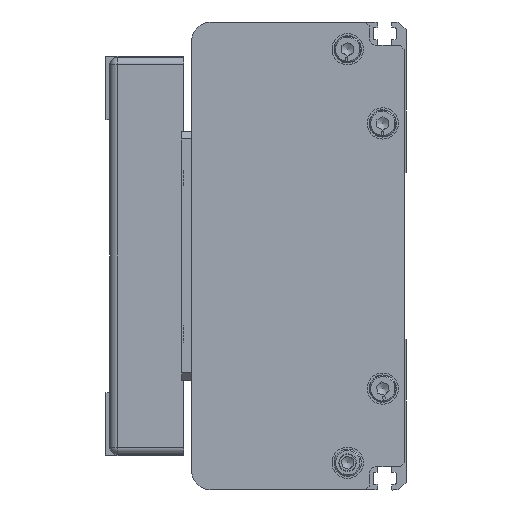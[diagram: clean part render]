
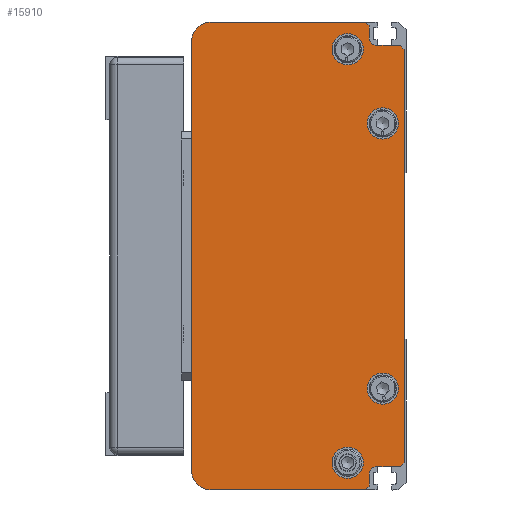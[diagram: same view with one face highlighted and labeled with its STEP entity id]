
A CAD part, left-side view. The second image highlights one B-rep face of the part: STEP entity #15910.
In plain terms, the highlighted planar face has unit normal (-1, 0, 0) as drawn and (0, 0, -1) by its records, which use the part's own axes.
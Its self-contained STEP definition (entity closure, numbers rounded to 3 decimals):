
#834=FACE_BOUND('',#2629,.T.);
#835=FACE_BOUND('',#2630,.T.);
#836=FACE_BOUND('',#2631,.T.);
#837=FACE_BOUND('',#2632,.T.);
#1156=CIRCLE('',#17050,5.);
#1157=CIRCLE('',#17052,5.);
#1158=CIRCLE('',#17053,2.);
#1159=CIRCLE('',#17054,2.);
#1160=CIRCLE('',#17055,4.);
#1161=CIRCLE('',#17056,4.);
#1162=CIRCLE('',#17057,4.);
#1163=CIRCLE('',#17058,4.);
#1592=FACE_OUTER_BOUND('',#2628,.T.);
#2628=EDGE_LOOP('',(#10962,#10963,#10964,#10965,#10966,#10967,#10968,#10969,
#10970,#10971,#10972,#10973,#10974,#10975,#10976,#10977));
#2629=EDGE_LOOP('',(#10978));
#2630=EDGE_LOOP('',(#10979));
#2631=EDGE_LOOP('',(#10980));
#2632=EDGE_LOOP('',(#10981));
#3873=LINE('',#22773,#5402);
#3874=LINE('',#22775,#5403);
#3875=LINE('',#22778,#5404);
#3876=LINE('',#22780,#5405);
#3877=LINE('',#22782,#5406);
#3878=LINE('',#22784,#5407);
#3879=LINE('',#22788,#5408);
#3880=LINE('',#22790,#5409);
#3881=LINE('',#22792,#5410);
#3882=LINE('',#22794,#5411);
#3883=LINE('',#22796,#5412);
#3884=LINE('',#22799,#5413);
#5402=VECTOR('',#18594,1.414);
#5403=VECTOR('',#18595,39.5);
#5404=VECTOR('',#18598,110.);
#5405=VECTOR('',#18599,39.5);
#5406=VECTOR('',#18600,1.414);
#5407=VECTOR('',#18601,3.);
#5408=VECTOR('',#18604,6.);
#5409=VECTOR('',#18605,1.414);
#5410=VECTOR('',#18606,106.);
#5411=VECTOR('',#18607,1.414);
#5412=VECTOR('',#18608,6.);
#5413=VECTOR('',#18611,3.);
#6969=VERTEX_POINT('',#22765);
#6970=VERTEX_POINT('',#22767);
#6971=VERTEX_POINT('',#22771);
#6972=VERTEX_POINT('',#22772);
#6973=VERTEX_POINT('',#22774);
#6974=VERTEX_POINT('',#22776);
#6975=VERTEX_POINT('',#22779);
#6976=VERTEX_POINT('',#22781);
#6977=VERTEX_POINT('',#22783);
#6978=VERTEX_POINT('',#22785);
#6979=VERTEX_POINT('',#22787);
#6980=VERTEX_POINT('',#22789);
#6981=VERTEX_POINT('',#22791);
#6982=VERTEX_POINT('',#22793);
#6983=VERTEX_POINT('',#22795);
#6984=VERTEX_POINT('',#22797);
#6985=VERTEX_POINT('',#22800);
#6986=VERTEX_POINT('',#22802);
#6987=VERTEX_POINT('',#22804);
#6988=VERTEX_POINT('',#22806);
#8563=EDGE_CURVE('',#6969,#6970,#1156,.T.);
#8565=EDGE_CURVE('',#6971,#6972,#3873,.T.);
#8566=EDGE_CURVE('',#6971,#6973,#3874,.T.);
#8567=EDGE_CURVE('',#6974,#6973,#1157,.T.);
#8568=EDGE_CURVE('',#6974,#6970,#3875,.T.);
#8569=EDGE_CURVE('',#6969,#6975,#3876,.T.);
#8570=EDGE_CURVE('',#6976,#6975,#3877,.T.);
#8571=EDGE_CURVE('',#6976,#6977,#3878,.T.);
#8572=EDGE_CURVE('',#6977,#6978,#1158,.T.);
#8573=EDGE_CURVE('',#6978,#6979,#3879,.T.);
#8574=EDGE_CURVE('',#6980,#6979,#3880,.T.);
#8575=EDGE_CURVE('',#6980,#6981,#3881,.T.);
#8576=EDGE_CURVE('',#6982,#6981,#3882,.T.);
#8577=EDGE_CURVE('',#6982,#6983,#3883,.T.);
#8578=EDGE_CURVE('',#6983,#6984,#1159,.T.);
#8579=EDGE_CURVE('',#6984,#6972,#3884,.T.);
#8580=EDGE_CURVE('',#6985,#6985,#1160,.T.);
#8581=EDGE_CURVE('',#6986,#6986,#1161,.T.);
#8582=EDGE_CURVE('',#6987,#6987,#1162,.T.);
#8583=EDGE_CURVE('',#6988,#6988,#1163,.T.);
#10962=ORIENTED_EDGE('',*,*,#8565,.F.);
#10963=ORIENTED_EDGE('',*,*,#8566,.T.);
#10964=ORIENTED_EDGE('',*,*,#8567,.F.);
#10965=ORIENTED_EDGE('',*,*,#8568,.T.);
#10966=ORIENTED_EDGE('',*,*,#8563,.F.);
#10967=ORIENTED_EDGE('',*,*,#8569,.T.);
#10968=ORIENTED_EDGE('',*,*,#8570,.F.);
#10969=ORIENTED_EDGE('',*,*,#8571,.T.);
#10970=ORIENTED_EDGE('',*,*,#8572,.T.);
#10971=ORIENTED_EDGE('',*,*,#8573,.T.);
#10972=ORIENTED_EDGE('',*,*,#8574,.F.);
#10973=ORIENTED_EDGE('',*,*,#8575,.T.);
#10974=ORIENTED_EDGE('',*,*,#8576,.F.);
#10975=ORIENTED_EDGE('',*,*,#8577,.T.);
#10976=ORIENTED_EDGE('',*,*,#8578,.T.);
#10977=ORIENTED_EDGE('',*,*,#8579,.T.);
#10978=ORIENTED_EDGE('',*,*,#8580,.T.);
#10979=ORIENTED_EDGE('',*,*,#8581,.T.);
#10980=ORIENTED_EDGE('',*,*,#8582,.T.);
#10981=ORIENTED_EDGE('',*,*,#8583,.T.);
#15282=PLANE('',#17051);
#15910=ADVANCED_FACE('',(#1592,#834,#835,#836,#837),#15282,.F.);
#17050=AXIS2_PLACEMENT_3D('',#22768,#18589,#18590);
#17051=AXIS2_PLACEMENT_3D('',#22770,#18592,#18593);
#17052=AXIS2_PLACEMENT_3D('',#22777,#18596,#18597);
#17053=AXIS2_PLACEMENT_3D('',#22786,#18602,#18603);
#17054=AXIS2_PLACEMENT_3D('',#22798,#18609,#18610);
#17055=AXIS2_PLACEMENT_3D('',#22801,#18612,#18613);
#17056=AXIS2_PLACEMENT_3D('',#22803,#18614,#18615);
#17057=AXIS2_PLACEMENT_3D('',#22805,#18616,#18617);
#17058=AXIS2_PLACEMENT_3D('',#22807,#18618,#18619);
#18589=DIRECTION('center_axis',(0.,0.,
1.));
#18590=DIRECTION('ref_axis',(0.707,0.707,0.));
#18592=DIRECTION('center_axis',(0.,0.,
1.));
#18593=DIRECTION('ref_axis',(-1.,-0.018,0.));
#18594=DIRECTION('',(0.707,-0.707,0.));
#18595=DIRECTION('',(0.,1.,0.));
#18596=DIRECTION('center_axis',(0.,0.,
1.));
#18597=DIRECTION('ref_axis',(-0.707,0.707,0.));
#18598=DIRECTION('',(1.,0.,0.));
#18599=DIRECTION('',(0.,-1.,0.));
#18600=DIRECTION('',(0.707,0.707,0.));
#18601=DIRECTION('',(-1.,0.,0.));
#18602=DIRECTION('center_axis',(0.,0.,
1.));
#18603=DIRECTION('ref_axis',(0.,-1.,0.));
#18604=DIRECTION('',(0.,-1.,0.));
#18605=DIRECTION('',(0.707,0.707,0.));
#18606=DIRECTION('',(-1.,0.,0.));
#18607=DIRECTION('',(0.707,-0.707,0.));
#18608=DIRECTION('',(0.,1.,0.));
#18609=DIRECTION('center_axis',(0.,0.,
1.));
#18610=DIRECTION('ref_axis',(1.,0.,0.));
#18611=DIRECTION('',(-1.,0.,0.));
#18612=DIRECTION('center_axis',(0.,0.,
1.));
#18613=DIRECTION('ref_axis',(0.,1.,0.));
#18614=DIRECTION('center_axis',(0.,0.,
1.));
#18615=DIRECTION('ref_axis',(0.,1.,0.));
#18616=DIRECTION('center_axis',(0.,0.,
1.));
#18617=DIRECTION('ref_axis',(0.,1.,0.));
#18618=DIRECTION('center_axis',(0.,0.,
1.));
#18619=DIRECTION('ref_axis',(0.,1.,0.));
#22765=CARTESIAN_POINT('',(124.75,50.75,-992.5));
#22767=CARTESIAN_POINT('',(119.75,55.75,-992.5));
#22768=CARTESIAN_POINT('Origin',(119.75,50.75,-992.5));
#22770=CARTESIAN_POINT('Origin',(64.75,28.5,-992.5));
#22771=CARTESIAN_POINT('',(4.75,11.25,-992.5));
#22772=CARTESIAN_POINT('',(5.75,10.25,-992.5));
#22773=CARTESIAN_POINT('',(4.75,11.25,-992.5));
#22774=CARTESIAN_POINT('',(4.75,50.75,-992.5));
#22775=CARTESIAN_POINT('',(4.75,11.25,-992.5));
#22776=CARTESIAN_POINT('',(9.75,55.75,-992.5));
#22777=CARTESIAN_POINT('Origin',(9.75,50.75,-992.5));
#22778=CARTESIAN_POINT('',(9.75,55.75,-992.5));
#22779=CARTESIAN_POINT('',(124.75,11.25,-992.5));
#22780=CARTESIAN_POINT('',(124.75,50.75,-992.5));
#22781=CARTESIAN_POINT('',(123.75,10.25,-992.5));
#22782=CARTESIAN_POINT('',(123.75,10.25,-992.5));
#22783=CARTESIAN_POINT('',(120.75,10.25,-992.5));
#22784=CARTESIAN_POINT('',(123.75,10.25,-992.5));
#22785=CARTESIAN_POINT('',(118.75,8.25,-992.5));
#22786=CARTESIAN_POINT('Origin',(120.75,8.25,-992.5));
#22787=CARTESIAN_POINT('',(118.75,2.25,-992.5));
#22788=CARTESIAN_POINT('',(118.75,8.25,-992.5));
#22789=CARTESIAN_POINT('',(117.75,1.25,-992.5));
#22790=CARTESIAN_POINT('',(117.75,1.25,-992.5));
#22791=CARTESIAN_POINT('',(11.75,1.25,-992.5));
#22792=CARTESIAN_POINT('',(117.75,1.25,-992.5));
#22793=CARTESIAN_POINT('',(10.75,2.25,-992.5));
#22794=CARTESIAN_POINT('',(10.75,2.25,-992.5));
#22795=CARTESIAN_POINT('',(10.75,8.25,-992.5));
#22796=CARTESIAN_POINT('',(10.75,2.25,-992.5));
#22797=CARTESIAN_POINT('',(8.75,10.25,-992.5));
#22798=CARTESIAN_POINT('Origin',(8.75,8.25,-992.5));
#22799=CARTESIAN_POINT('',(8.75,10.25,-992.5));
#22800=CARTESIAN_POINT('',(30.75,10.75,-992.5));
#22801=CARTESIAN_POINT('Origin',(30.75,6.75,-992.5));
#22802=CARTESIAN_POINT('',(98.75,10.75,-992.5));
#22803=CARTESIAN_POINT('Origin',(98.75,6.75,-992.5));
#22804=CARTESIAN_POINT('',(11.75,19.75,-992.5));
#22805=CARTESIAN_POINT('Origin',(11.75,15.75,-992.5));
#22806=CARTESIAN_POINT('',(117.75,19.75,-992.5));
#22807=CARTESIAN_POINT('Origin',(117.75,15.75,-992.5));
